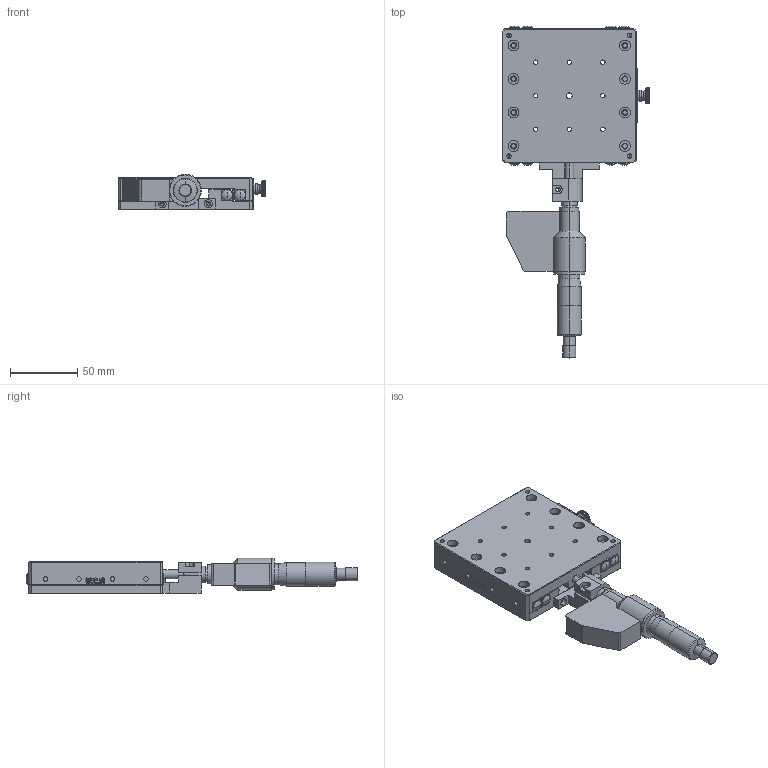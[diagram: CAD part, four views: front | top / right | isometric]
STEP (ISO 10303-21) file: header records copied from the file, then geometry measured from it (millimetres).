
FILE_DESCRIPTION (( 'STEP AP214' ), '1' );
FILE_NAME ('PT-SX25.STEP', '2022-09-03T07:30:40', ( '' ), ( '' ), 'SwSTEP 2.0', 'SolidWorks 2017', '' );
FILE_SCHEMA (( 'AUTOMOTIVE_DESIGN' ));
Length unit declared in the file: millimetre
Products named in the file (12): _VR3-100_14Z Roller guide; Top; 垫圈; _VR3-100_14Z Roller cage; 萇赽杅珆峚煦芛; _VR3-100_14Z Roller guide; 煦濰縐粣釱; 钢球; -02菁啣; PT-SX25; -03癹弇え; -04詢芛幗豪蹟隊; -01怢醱
Assembly tree (14 placements, depth 2):
  PT-SX25
    -02菁啣
    _VR3-100_14Z Roller guide  x2
    _VR3-100_14Z Roller cage  x2
    -01怢醱
    _VR3-100_14Z Roller guide; Top  x2
    煦濰縐粣釱
    萇赽杅珆峚煦芛
    钢球
    -03癹弇え
    -04詢芛幗豪蹟隊
    垫圈
Bounding box: 110 x 247.5 x 26.5 mm (x, y, z)
Volume: 273464.8 mm3; surface area: 98257 mm2
Topology: 15 solids, 15 shells, 1457 faces, 3708 edges, 2310 vertices
Faces by surface type: plane 754, cylinder 378, cone 226, bspline 98, sphere 1
Entity records: 37419 total; most frequent: CARTESIAN_POINT 9890, ORIENTED_EDGE 5590, DIRECTION 5558, EDGE_CURVE 2795, AXIS2_PLACEMENT_3D 1938, VERTEX_POINT 1764, LINE 1682, VECTOR 1682
